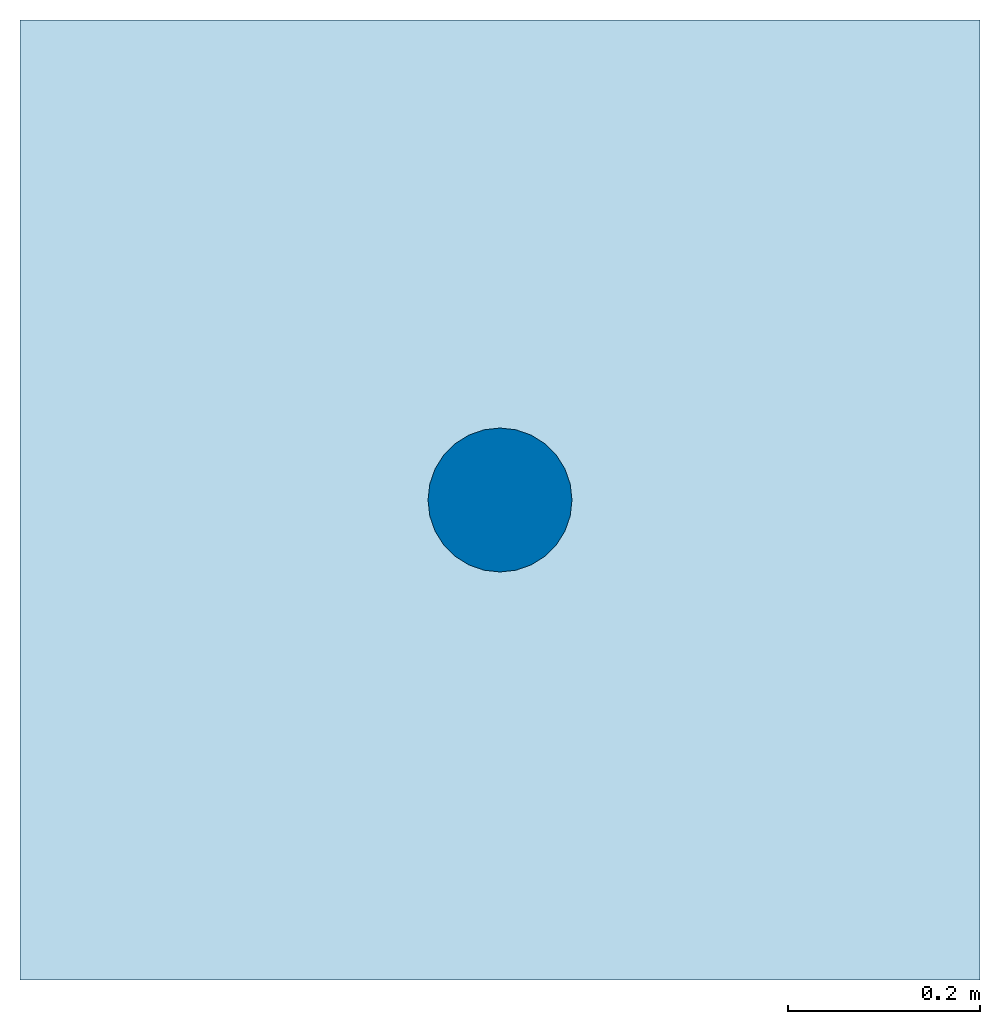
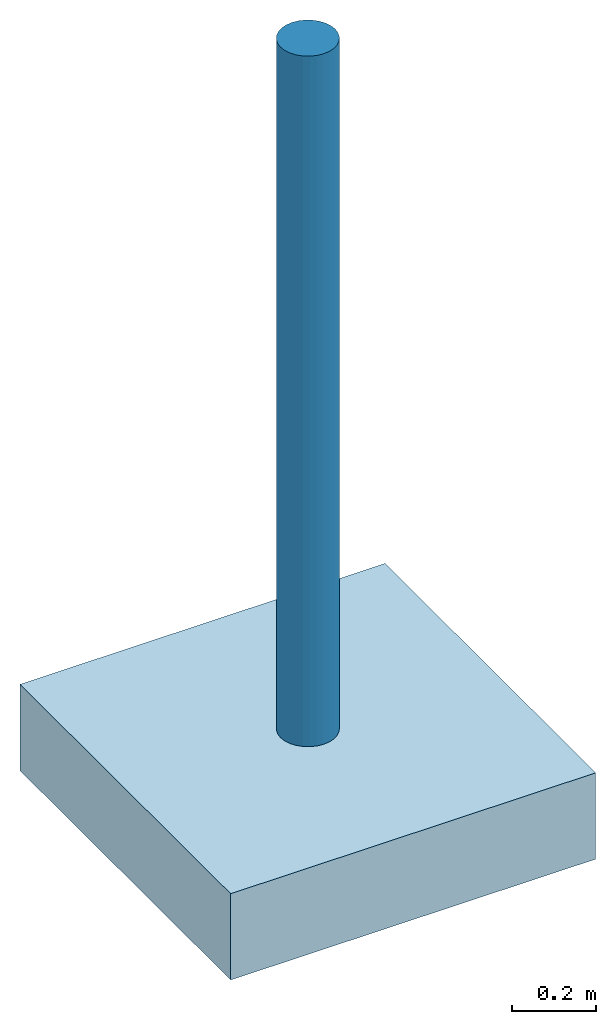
# One storey: 1 column, 1 slab.
"""IFC4 building model written with IfcOpenShell, lengths in metres."""

from ifc_helpers import new_model, entity, si_unit, converted_unit, direction, frame, frame_2d, origin, origin_2d_with_axis, place, context, subcontext, project, spatial, rectangle, circle, extrude, source, transform, mapped, material, material_profile, profile_set, type_object, type_shapes, element, save


model = new_model("IFC4")

# Units and contexts
model_context = context("Model", 3, precision=1e-05, world=origin(), true_north=direction((6.123031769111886e-17, 1.0)))
body_context = subcontext(model_context, "Body", "Model", "MODEL_VIEW")
ifc_project = project(units=[si_unit("LENGTHUNIT", "METRE"), converted_unit("PLANEANGLEUNIT", "DEGREE", entity("IfcPlaneAngleMeasure", 0.017453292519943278), si_unit("PLANEANGLEUNIT", "RADIAN"), dimensions=[0, 0, 0, 0, 0, 0, 0]), si_unit("AREAUNIT", "SQUARE_METRE")], contexts=[model_context])

# Site, building, storey
site_placement = place(None, origin())
site = spatial("IfcSite", under=ifc_project, at=site_placement, Name="Default", CompositionType="ELEMENT")
building_placement = place(site_placement, origin())
building = spatial("IfcBuilding", under=site, at=building_placement, CompositionType="ELEMENT")
storey_placement = place(building_placement, origin())
storey = spatial("IfcBuildingStorey", under=building, at=storey_placement, Name="DB_Bezugshoehe_max_Bahnsteigkante", CompositionType="ELEMENT", Elevation=0.0)

# Column
ifc_material_1 = material(Name="DB_Stahl_verzinkt_RAL9006", Category="DB_Stahl")
ifc_material_profile = material_profile(ifc_material_1, circle(Radius=0.07499999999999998, at=frame_2d((-2.054097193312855e-18, -1.21165843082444e-16), x_axis=(1.0, 0.0))), Name="DB_EtA_Minimast")
ifc_profile_set = profile_set([ifc_material_profile], Name="DB_EtA_Minimast")
column_type = type_object("IfcColumnType", Name="DB_EtA_Minimast:DB_EtA_Minimast", PredefinedType="COLUMN", material=ifc_profile_set)
shared_shape = source(origin(), body_context, "Body", "SweptSolid", [
    extrude(circle(Radius=0.07499999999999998, at=frame_2d((-2.054097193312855e-18, -1.21165843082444e-16), x_axis=(1.0, 0.0))), frame((0.0, 0.0, -0.3)), (0.0, 0.0, 1.0), 1.9999999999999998),
])
type_shapes(column_type, [shared_shape])
column_placement = place(storey_placement, origin())
element("IfcColumn", 1, at=column_placement, inside=storey, type_object=column_type, Name="DB_EtA_Minimast:DB_EtA_Minimast", ObjectType="DB_EtA_Minimast:DB_EtA_Minimast", PredefinedType="COLUMN", context=body_context, shape_type="MappedRepresentation", body=[
    mapped(shared_shape, transform((0.0, 0.0, 0.0), scale=1.0)),
])

# Slab
ifc_material_2 = material(Name="DB_Gusseisen_RAL7036", Category="DB_Aluminium")
slab_type = type_object("IfcSlabType", Name="DB_EtA_Fundament:DB_EtA_Fundament", PredefinedType="BASESLAB", material=ifc_material_2)
slab_placement = place(storey_placement, origin())
element("IfcSlab", 2, at=slab_placement, inside=storey, type_object=slab_type, Name="DB_EtA_Fundament:DB_EtA_Fundament", ObjectType="DB_EtA_Fundament:DB_EtA_Fundament", PredefinedType="BASESLAB", context=body_context, shape_type="SweptSolid", body=[
    extrude(rectangle(XDim=1.0, YDim=1.0, at=origin_2d_with_axis()), frame((0.0, 0.0, -0.5499999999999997), z_axis=(0.0, 0.0, 1.0), x_axis=(-1.0, 0.0, 0.0)), (0.0, 0.0, 1.0), 0.24999999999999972),
])

save(model, "model.ifc")
